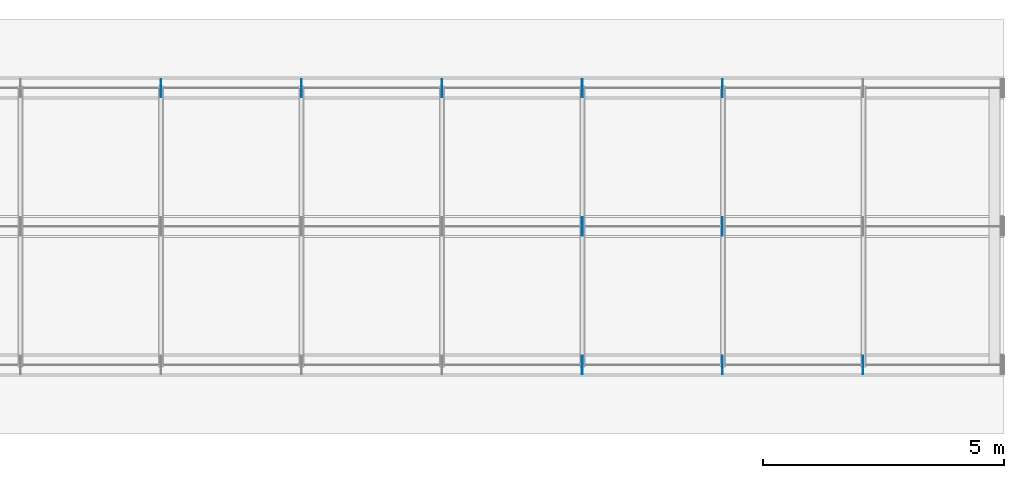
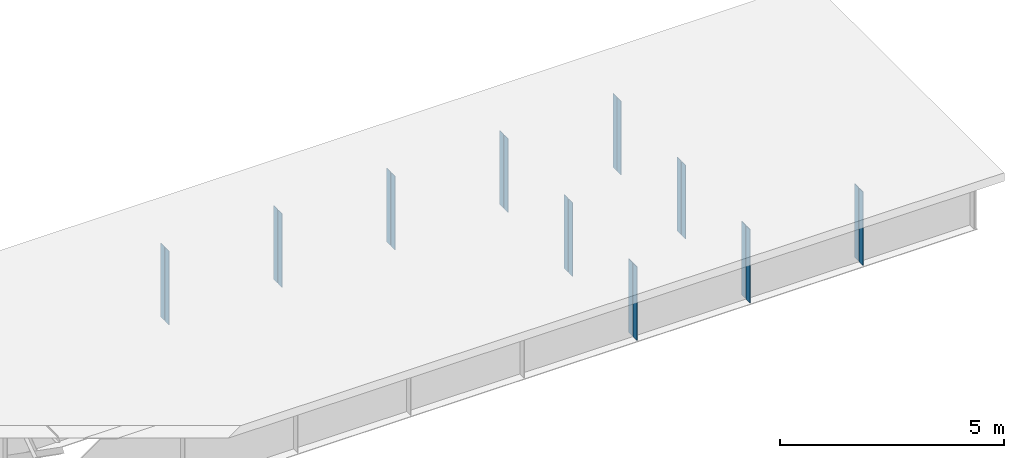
# One storey, part 10 of 11: 20 plates.
"""IFC4 building model written with IfcOpenShell, lengths in metres."""

from ifc_helpers import new_model, si_unit, frame, origin, origin_with_axes, origin_2d_with_axis, place, context, subcontext, project, spatial, rectangle, extrude, element, save


model = new_model("IFC4")

# Units and contexts
model_context = context("Model", 3, precision=1e-05, world=origin())
body_context = subcontext(model_context, "Body", "Model", "MODEL_VIEW")
ifc_project = project(units=[si_unit("LENGTHUNIT", "METRE"), si_unit("AREAUNIT", "SQUARE_METRE"), si_unit("VOLUMEUNIT", "CUBIC_METRE"), si_unit("PLANEANGLEUNIT", "RADIAN")], contexts=[model_context])

# Site, building, storey
site_placement = place(None, origin_with_axes())
site = spatial("IfcSite", under=ifc_project, at=site_placement, Name="Default Site")
building_placement = place(site_placement, origin_with_axes())
building = spatial("IfcBuilding", under=site, at=building_placement, Name="Bridge Structure")
storey_placement = place(building_placement, origin_with_axes())
storey = spatial("IfcBuildingStorey", under=building, at=storey_placement, Name="Superstructure")

# Plates
for number, where, z_axis, x_axis, name in (
    (1, (26.244, -2.7767500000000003, -1.005), (0.0, 0.0, 1.0), (1.0, 0.0, 0.0), "Intermediate Stiffener 1"),
    (2, (26.244, -2.97325, -1.005), (0.0, 0.0, 1.0), (1.0, 0.0, 0.0), "Intermediate Stiffener 1"),
    (3, (29.16, -2.7767500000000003, -1.005), (0.0, 0.0, 1.0), (1.0, 0.0, 0.0), "Intermediate Stiffener 1"),
    (4, (29.16, -2.97325, -1.005), (0.0, 0.0, 1.0), (1.0, 0.0, 0.0), "Intermediate Stiffener 1"),
    (5, (32.076, -2.7767500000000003, -1.005), (0.0, 0.0, 1.0), (1.0, 0.0, 0.0), "Intermediate Stiffener 1"),
    (6, (32.076, -2.97325, -1.005), (0.0, 0.0, 1.0), (1.0, 0.0, 0.0), "Intermediate Stiffener 1"),
    (7, (26.244, 0.09825, -1.005), (0.0, 0.0, 1.0), (1.0, 0.0, 0.0), "Intermediate Stiffener 2"),
    (8, (26.244, -0.09825, -1.005), (0.0, 0.0, 1.0), (1.0, 0.0, 0.0), "Intermediate Stiffener 2"),
    (9, (29.16, 0.09825, -1.005), (0.0, 0.0, 1.0), (1.0, 0.0, 0.0), "Intermediate Stiffener 2"),
    (10, (29.16, -0.09825, -1.005), (0.0, 0.0, 1.0), (1.0, 0.0, 0.0), "Intermediate Stiffener 2"),
    (11, (17.496, 2.97325, -1.005), (0.0, 0.0, 1.0), (1.0, 0.0, 0.0), "Intermediate Stiffener 3"),
    (12, (17.496, 2.7767500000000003, -1.005), (0.0, 0.0, 1.0), (1.0, 0.0, 0.0), "Intermediate Stiffener 3"),
    (13, (20.412, 2.97325, -1.005), (0.0, 0.0, 1.0), (1.0, 0.0, 0.0), "Intermediate Stiffener 3"),
    (14, (20.412, 2.7767500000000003, -1.005), (0.0, 0.0, 1.0), (1.0, 0.0, 0.0), "Intermediate Stiffener 3"),
    (15, (23.328, 2.97325, -1.005), (0.0, 0.0, 1.0), (1.0, 0.0, 0.0), "Intermediate Stiffener 3"),
    (16, (23.328, 2.7767500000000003, -1.005), (0.0, 0.0, 1.0), (1.0, 0.0, 0.0), "Intermediate Stiffener 3"),
    (17, (26.244, 2.97325, -1.005), (0.0, 0.0, 1.0), (1.0, 0.0, 0.0), "Intermediate Stiffener 3"),
    (18, (26.244, 2.7767500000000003, -1.005), (0.0, 0.0, 1.0), (1.0, 0.0, 0.0), "Intermediate Stiffener 3"),
    (19, (29.16, 2.97325, -1.005), (0.0, 0.0, 1.0), (1.0, 0.0, 0.0), "Intermediate Stiffener 3"),
    (20, (29.16, 2.7767500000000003, -1.005), (0.0, 0.0, 1.0), (1.0, 0.0, 0.0), "Intermediate Stiffener 3"),
):
    element("IfcPlate", number, at=place(storey_placement, frame(where, z_axis=z_axis, x_axis=x_axis)), inside=storey, Name=name, context=body_context, shape_type="SweptSolid", body=[
        extrude(rectangle(XDim=0.012, YDim=0.1785, at=origin_2d_with_axis()), origin_with_axes(), (0.0, 0.0, 1.0), 2.01),
    ])

save(model, "model.ifc")
